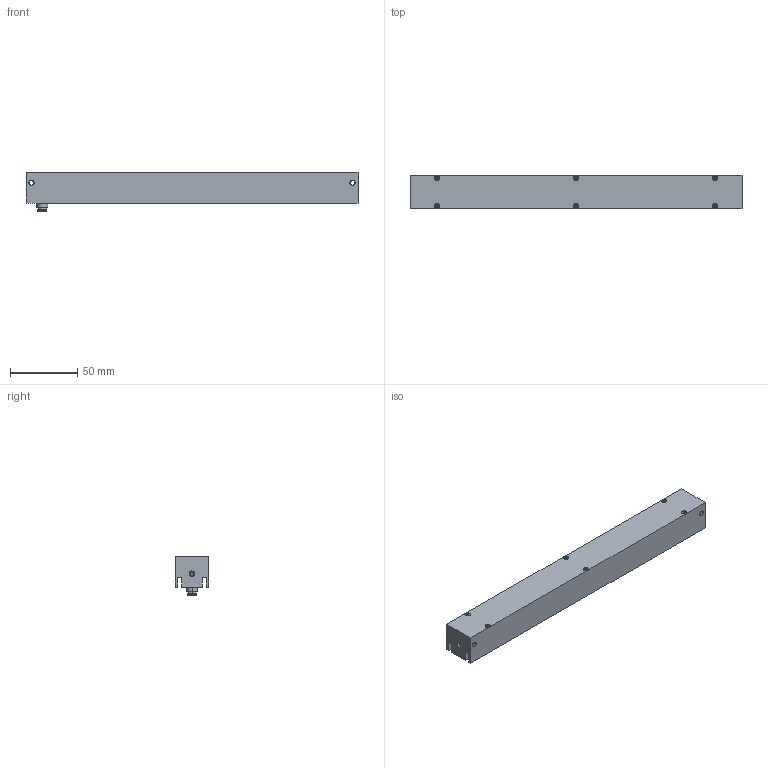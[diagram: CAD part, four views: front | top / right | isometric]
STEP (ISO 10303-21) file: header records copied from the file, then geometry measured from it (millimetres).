
FILE_DESCRIPTION(('STEP AP214'),'1');
FILE_NAME('LINE-D4-Kundenmodell.stp','2019-03-12T08:09:16',(' '),(' '),'Spatial InterOp 3D',' ',' ');
FILE_SCHEMA(('AUTOMOTIVE_DESIGN { 1 0 10303 214 1 1 1 1 }'));
Length unit declared in the file: millimetre
Products named in the file (10): LINE-D4-Kundenmodell; Schrauben; din_en_iso_7046-2_m2x4_h_1; Muster
Assembly tree (14 placements, depth 4):
  LINE-D4-Kundenmodell
    LINE-D4-Kundenmodell
    Muster
      Schrauben
        din_en_iso_7046-2_m2x4_h_1
      Schrauben
        din_en_iso_7046-2_m2x4_h_1
      Schrauben
        din_en_iso_7046-2_m2x4_h_1
      Schrauben
        din_en_iso_7046-2_m2x4_h_1
      Schrauben
        din_en_iso_7046-2_m2x4_h_1
      Schrauben
        din_en_iso_7046-2_m2x4_h_1
Bounding box: 246 x 25 x 29.25 mm (x, y, z)
Volume: 91902.6 mm3; surface area: 53746.3 mm2
Topology: 7 solids, 22 shells, 426 faces, 1049 edges, 646 vertices
Faces by surface type: cylinder 162, plane 154, cone 86, torus 16, sphere 8
Entity records: 10319 total; most frequent: DIRECTION 1515, CARTESIAN_POINT 1356, ORIENTED_EDGE 1202, EDGE_CURVE 629, AXIS2_PLACEMENT_3D 606, VERTEX_POINT 406, CIRCLE 318, EDGE_LOOP 307
